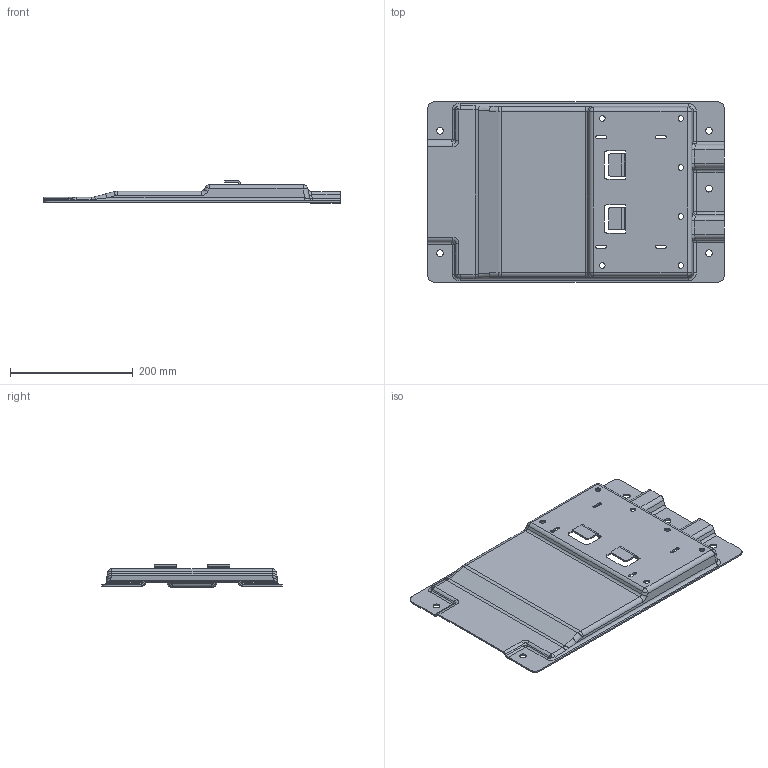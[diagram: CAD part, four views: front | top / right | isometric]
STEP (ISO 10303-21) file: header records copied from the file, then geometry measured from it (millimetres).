
FILE_DESCRIPTION(('CATIA V5 STEP Exchange'),'2;1');
FILE_NAME('F:\福田A6\17-新能源车\数据\变更后数据\A668100000147（SHT0017898）-副司机座椅底支架总成\SHT0017894-副驾底支架上板\SHT0017894-20250328.stp','2025-03-31T01:48:46+00:00',('none'),('none'),'CATIA Version 5 Release 20 GA (IN-10)','CATIA V5 STEP AP203','none');
FILE_SCHEMA(('CONFIG_CONTROL_DESIGN'));
Length unit declared in the file: millimetre
Products named in the file (1): SHT0017894
Bounding box: 484 x 294 x 37.5 mm (x, y, z)
Volume: 395080.9 mm3; surface area: 322371.8 mm2
Topology: 1 solids, 1 shells, 412 faces, 1040 edges, 600 vertices
Faces by surface type: cylinder 220, plane 102, bspline 64, sphere 26
Entity records: 16373 total; most frequent: CARTESIAN_POINT 7636, ORIENTED_EDGE 2020, DIRECTION 1340, EDGE_CURVE 1010, VERTEX_POINT 600, AXIS2_PLACEMENT_3D 574, EDGE_LOOP 446, VECTOR 445
